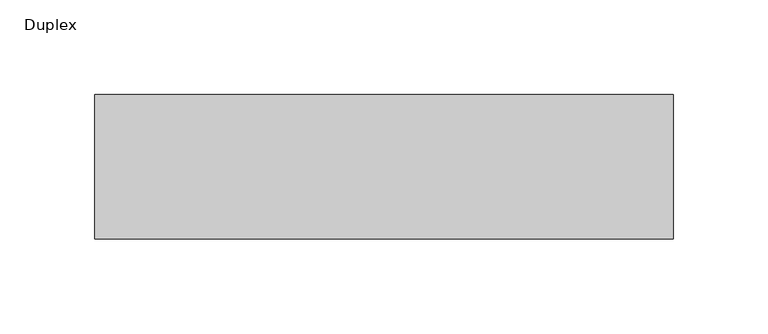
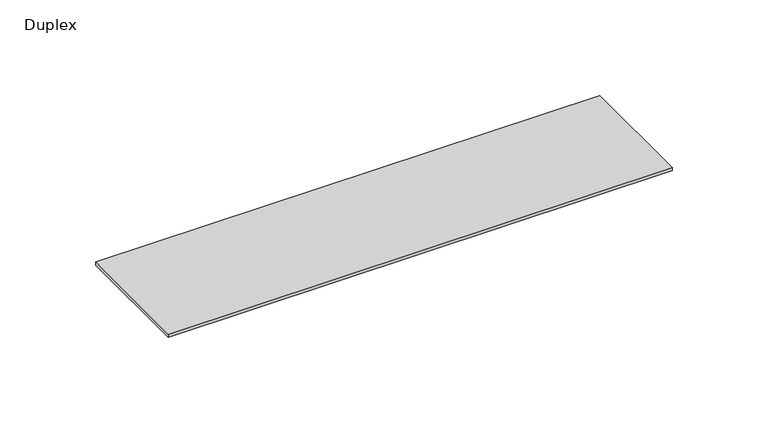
"""IFC4 building model written with IfcOpenShell, lengths in millimetres: proxy geometry, Cover_Plates-ALA3800_Series-Wiremold : Duplex."""

from ifc_helpers import new_model, si_unit, origin, origin_with_axes, place, context, project, spatial, polyline, outline, extrude, source, transform, mapped, element, save


def duplex_5642bea1(model_context):
    return source(origin(), model_context, "Body", "SweptSolid", [
        extrude(outline(polyline([(152.4, 38.1), (152.4, -38.1), (-152.4, -38.1), (-152.4, 38.1), (152.4, 38.1)])), origin_with_axes(), (0.0, 0.0, 1.0), 1.9812),
    ])


if __name__ == "__main__":
    model = new_model("IFC4")
    model_context = context("Model", 3, world=origin())
    ifc_project = project(units=[si_unit("LENGTHUNIT", "METRE", prefix="MILLI")], contexts=[model_context])
    site = spatial("IfcSite", under=ifc_project)
    building = spatial("IfcBuilding", under=site)
    placement = place(None, origin())
    duplex_shape = duplex_5642bea1(model_context)
    element("IfcBuildingElementProxy", 1, Name="Cover_Plates-ALA3800_Series-Wiremold : Duplex", ObjectType="Cover_Plates-ALA3800_Series-Wiremold : Duplex", at=placement, inside=building, context=model_context, shape_type="MappedRepresentation", body=[
        mapped(duplex_shape, transform((0.0, 0.0, 0.0), x_axis=(1.0, 0.0, 0.0), y_axis=(0.0, 1.0, 0.0), z_axis=(0.0, 0.0, 1.0))),
    ])
    save(model, "model.ifc")
